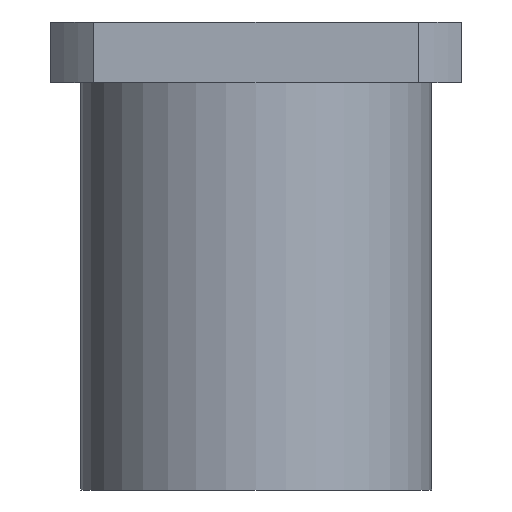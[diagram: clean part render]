
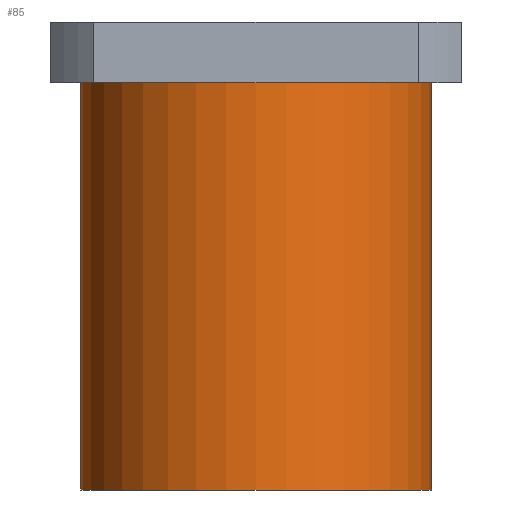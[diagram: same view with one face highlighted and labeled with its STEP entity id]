
A CAD part, front view. The second image highlights one B-rep face of the part: STEP entity #85.
In plain terms, the highlighted cylindrical face has radius 37.5 mm (diameter 75 mm), a partial arc.
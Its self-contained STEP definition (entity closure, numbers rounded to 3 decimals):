
#44=CARTESIAN_POINT('',(0.0,0.0,0.0));
#45=DIRECTION('',(0.0,0.0,1.0));
#46=DIRECTION('',(-1.0,0.0,0.0));
#47=AXIS2_PLACEMENT_3D('',#44,#45,#46);
#48=CYLINDRICAL_SURFACE('',#47,37.5);
#49=CARTESIAN_POINT('',(-37.5,0.,0.0));
#50=VERTEX_POINT('',#49);
#51=CARTESIAN_POINT('',(-37.5,0.,87.0));
#52=VERTEX_POINT('',#51);
#53=CARTESIAN_POINT('',(-37.5,0.,0.0));
#54=DIRECTION('',(0.0,0.0,1.0));
#55=VECTOR('',#54,87.0);
#56=LINE('',#53,#55);
#57=EDGE_CURVE('',#50,#52,#56,.T.);
#58=ORIENTED_EDGE('',*,*,#57,.F.);
#59=CARTESIAN_POINT('',(37.5,0.,0.0));
#60=VERTEX_POINT('',#59);
#61=CARTESIAN_POINT('',(0.0,0.0,0.0));
#62=DIRECTION('',(0.0,0.0,-1.0));
#63=DIRECTION('',(-1.0,0.0,0.0));
#64=AXIS2_PLACEMENT_3D('',#61,#62,#63);
#65=CIRCLE('',#64,37.5);
#66=EDGE_CURVE('',#60,#50,#65,.T.);
#67=ORIENTED_EDGE('',*,*,#66,.F.);
#68=CARTESIAN_POINT('',(37.5,0.,87.0));
#69=VERTEX_POINT('',#68);
#70=CARTESIAN_POINT('',(37.5,0.,87.0));
#71=DIRECTION('',(0.0,0.0,-1.0));
#72=VECTOR('',#71,87.0);
#73=LINE('',#70,#72);
#74=EDGE_CURVE('',#69,#60,#73,.T.);
#75=ORIENTED_EDGE('',*,*,#74,.F.);
#76=CARTESIAN_POINT('',(0.0,0.0,87.0));
#77=DIRECTION('',(0.0,0.0,-1.0));
#78=DIRECTION('',(-1.0,0.0,0.0));
#79=AXIS2_PLACEMENT_3D('',#76,#77,#78);
#80=CIRCLE('',#79,37.5);
#81=EDGE_CURVE('',#69,#52,#80,.T.);
#82=ORIENTED_EDGE('',*,*,#81,.T.);
#83=EDGE_LOOP('',(#58,#67,#75,#82));
#84=FACE_OUTER_BOUND('',#83,.T.);
#85=ADVANCED_FACE('',(#84),#48,.T.);
